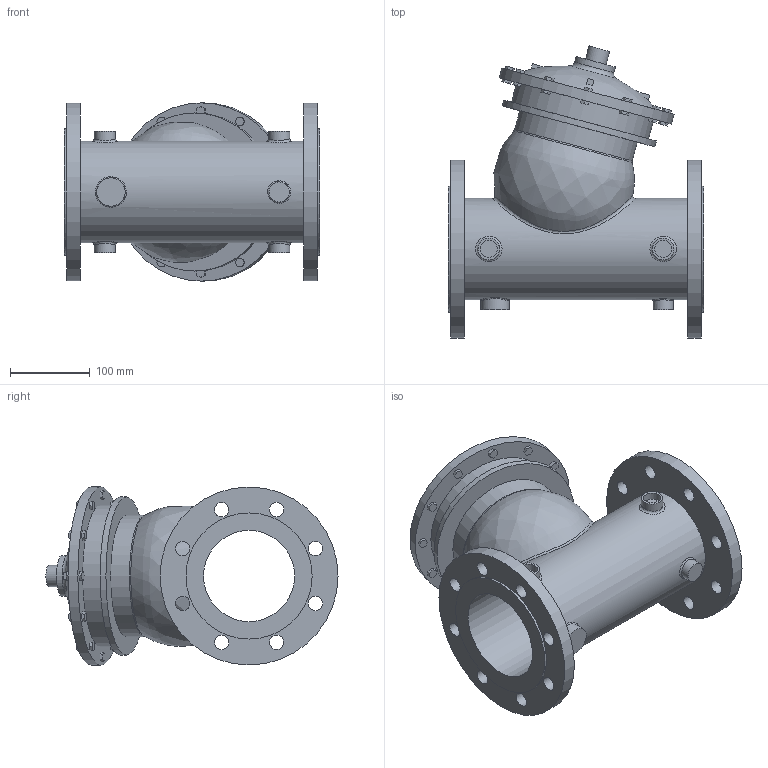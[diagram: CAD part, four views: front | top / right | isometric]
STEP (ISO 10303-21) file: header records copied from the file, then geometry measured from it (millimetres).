
FILE_DESCRIPTION(/* description */ ('VIC FP VALVE PRESSURE RELIEF SERIES 867-7UF (PN16)','CAx-IF Rec.Pracs.---Representation and Presentation of Product Manufacturing Information (PMI)---4.0---2014-10-13'),/* implementation_level */ '2;1');
FILE_NAME(/* name */ 'C:\Series 867-7UF\Series 867-7UF final\pn16\step\Victaulic_FP-Bermad_Valve Pressure Relief_Series 867-7UF (PN16)\Victaulic_FP-Bermad_Valve Pressure Relief_Series 867-7UF (PN16)_4 (100).stp',/* time_stamp */ '2021-09-02T19:17:02+06:00',/* author */ ('kkamble'),/* organization */ ('Victaulic'),/* preprocessor_version */ 'ST-DEVELOPER v17.2',/* originating_system */ 'Autodesk Inventor 2019',/* authorisation */ '');
FILE_SCHEMA (('AP242_MANAGED_MODEL_BASED_3D_ENGINEERING_MIM_LF { 1 0 10303 442 1 1 4 }'));
Length unit declared in the file: inch
Products named in the file (1): 867-7UF-04.0
Bounding box: 320.04 x 366.02 x 223.52 mm (x, y, z)
Volume: 5713759.4 mm3; surface area: 531650 mm2
Topology: 1 solids, 1 shells, 259 faces, 661 edges, 449 vertices
Faces by surface type: plane 210, cylinder 38, bspline 9, torus 2
Full cylindrical faces by diameter (mm): 18 x16, 21.336 x4, 25.4 x1, 26.67 x1, 26.873 x4, 35.56 x1, 50.8 x1, 114.3 x1, 127 x1, 152.4 x1, 158 x2, 177.8 x1, 198.12 x1, 223.012 x2, 223.52 x1
Entity records: 9366 total; most frequent: CARTESIAN_POINT 2561, ORIENTED_EDGE 1334, DIRECTION 1260, EDGE_CURVE 667, LINE 510, VECTOR 510, VERTEX_POINT 455, AXIS2_PLACEMENT_3D 375
